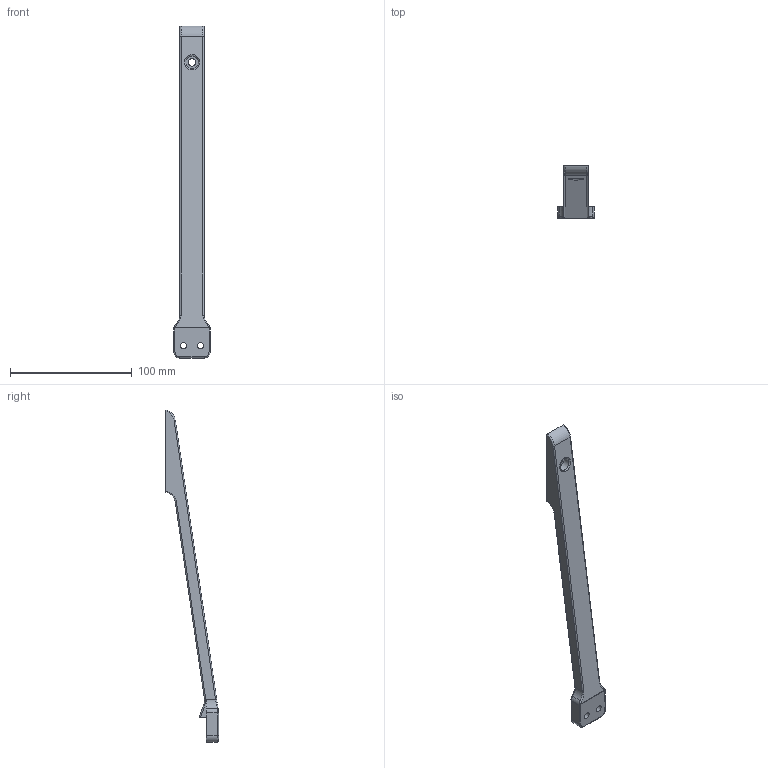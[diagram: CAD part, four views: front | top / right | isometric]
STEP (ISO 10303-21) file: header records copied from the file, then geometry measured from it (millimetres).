
FILE_DESCRIPTION(/* description */ ('STEP AP242','CAx-IF Rec.Pracs.---Representation and Presentation of Product Manufacturing Information (PMI)---4.0---2014-10-13','CAx-IF Rec.Pracs.---3D Tessellated Geometry---0.4---2014-09-14','2;1','CAx-IF Rec.Pracs.---User Defined Attributes---1.5---2016-08-15'),/* implementation_level */ '2;1');
FILE_NAME(/* name */ 'Full Assembly - Part 1 (5)',/* time_stamp */ '2025-11-03T04:00:12Z',/* author */ (''),/* organization */ (''),/* preprocessor_version */ 'ST-DEVELOPER v20',/* originating_system */ 'ONSHAPE BY PTC INC, 1.206',/* authorisation */ ' ');
FILE_SCHEMA (('AP242_MANAGED_MODEL_BASED_3D_ENGINEERING_MIM_LF { 1 0 10303 442 1 1 4 }'));
Length unit declared in the file: metre
Products named in the file (1): Part 1
Bounding box: 30 x 43.5 x 272.25 mm (x, y, z)
Volume: 59187.2 mm3; surface area: 17941.9 mm2
Topology: 1 solids, 1 shells, 53 faces, 129 edges, 79 vertices
Faces by surface type: cylinder 23, plane 13, torus 10, bspline 7
Full cylindrical faces by diameter (mm): 5.2 x2, 6.2 x1, 10.5 x1
Entity records: 1641 total; most frequent: CARTESIAN_POINT 385, DIRECTION 275, ORIENTED_EDGE 244, EDGE_CURVE 122, AXIS2_PLACEMENT_3D 114, VERTEX_POINT 77, EDGE_LOOP 65, FACE_BOUND 65
